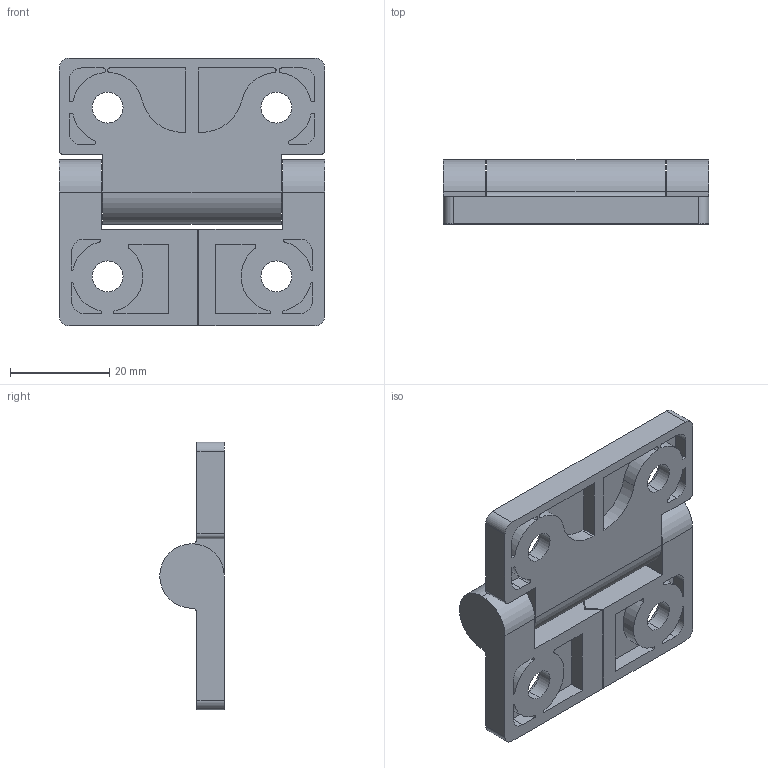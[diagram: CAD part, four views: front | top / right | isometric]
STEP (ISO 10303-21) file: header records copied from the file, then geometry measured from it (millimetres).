
FILE_DESCRIPTION (( 'STEP AP214' ), '1' );
FILE_NAME ('CL153.STEP', '2023-07-20T07:00:42', ( '' ), ( '' ), 'SwSTEP 2.0', 'SolidWorks 2019', '' );
FILE_SCHEMA (( 'AUTOMOTIVE_DESIGN' ));
Length unit declared in the file: millimetre
Products named in the file (1): CL153
Bounding box: 53.5 x 13 x 54 mm (x, y, z)
Volume: 16112.5 mm3; surface area: 11574.4 mm2
Topology: 4 solids, 4 shells, 149 faces, 371 edges, 246 vertices
Faces by surface type: plane 79, cylinder 70
Entity records: 4554 total; most frequent: DIRECTION 811, CARTESIAN_POINT 767, ORIENTED_EDGE 742, EDGE_CURVE 371, AXIS2_PLACEMENT_3D 290, VERTEX_POINT 246, LINE 231, VECTOR 231
